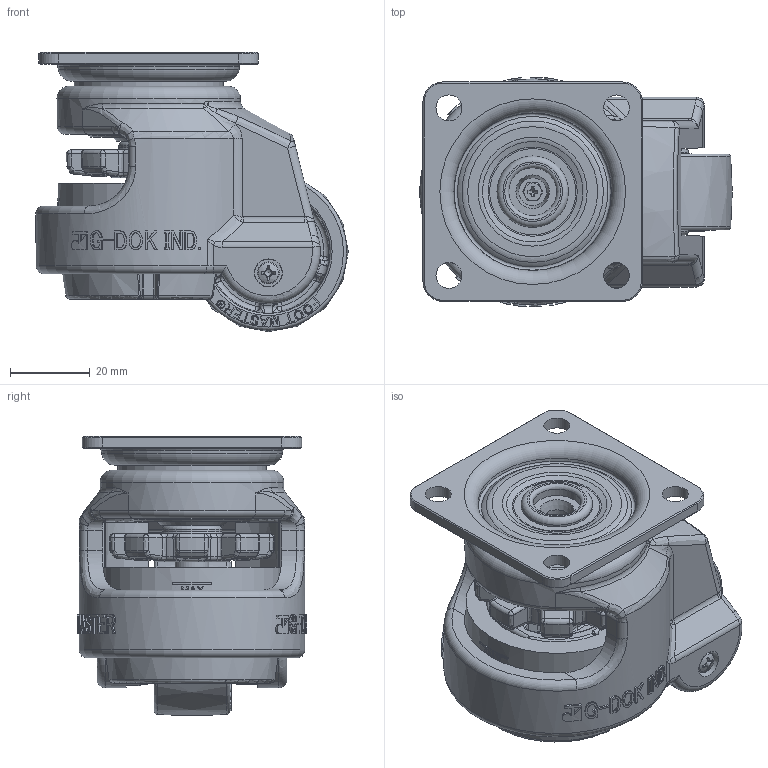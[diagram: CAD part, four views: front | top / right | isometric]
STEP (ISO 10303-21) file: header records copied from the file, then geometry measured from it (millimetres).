
FILE_DESCRIPTION(/* description */ (''),/* implementation_level */ '2;1');
FILE_NAME(/* name */ 'Z:\1.기술연구소\★★도면정리_20220308\GD-series_오창근편집본\도면높이보정용\1. GD, GDN-40\3D\관리본\STEP\GDN-40-F-NYN_H70_W40.stp',/* time_stamp */ '2023-07-27T19:47:29+09:00',/* author */ ('admin'),/* organization */ (''),/* preprocessor_version */ 'ST-DEVELOPER v18.1',/* originating_system */ 'Autodesk Inventor 2021',/* authorisation */ '');
FILE_SCHEMA (('AUTOMOTIVE_DESIGN { 1 0 10303 214 3 1 1 }'));
Products named in the file (1): 2. GDN-40-F-NYN_H70_W40_Shrinkwrap_1
Bounding box: 78.3 x 57.6 x 69.96 mm (x, y, z)
Volume: 124932.3 mm3; surface area: 47358.9 mm2
Topology: 3 solids, 4 shells, 2668 faces, 6615 edges, 3968 vertices
Faces by surface type: bspline 1040, plane 821, cylinder 299, torus 210, cone 160, sphere 138
Full cylindrical faces by diameter (mm): 2.9 x2, 5.5 x2, 6.5 x4, 7 x2, 7.1 x1, 8 x1, 8.4 x1, 10.945 x1, 11.542 x1, 12 x1, 14.9 x1, 15 x1, 17.9 x1, 18 x1, 30 x1, 37.383 x1, 46 x1
Entity records: 101603 total; most frequent: CARTESIAN_POINT 42467, ORIENTED_EDGE 13020, DIRECTION 9536, EDGE_CURVE 6510, VERTEX_POINT 3968, AXIS2_PLACEMENT_3D 3608, EDGE_LOOP 2803, FACE_OUTER_BOUND 2668
